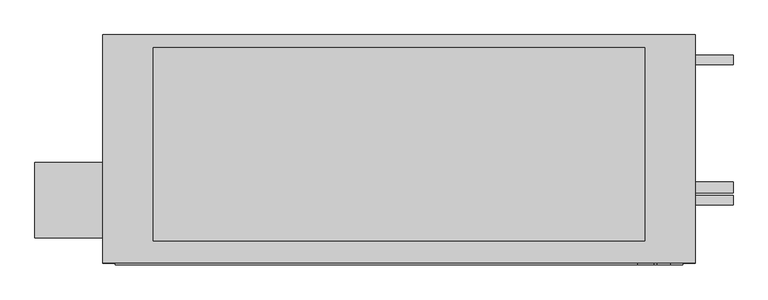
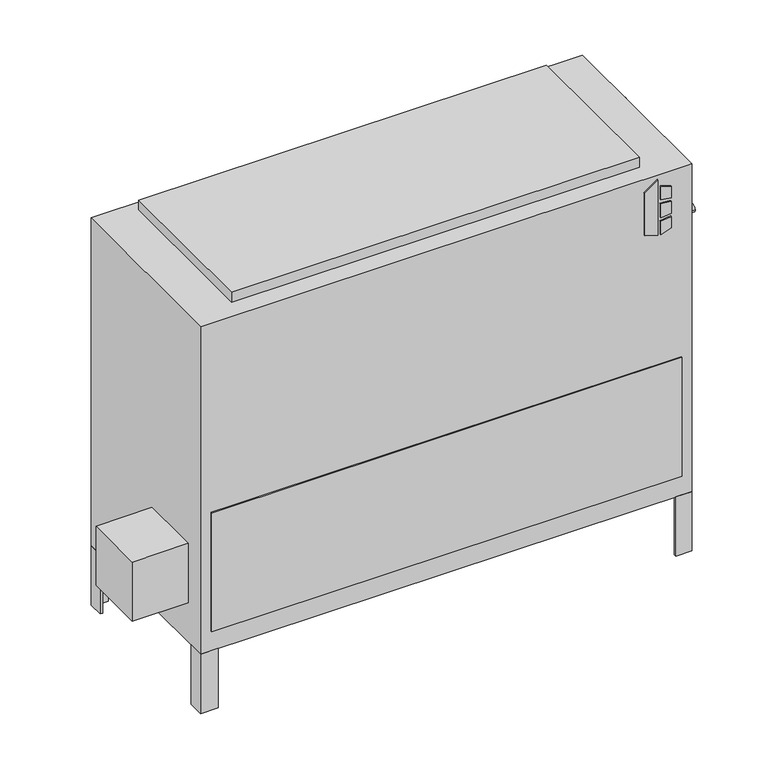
"""IFC4 building model written with IfcOpenShell, lengths in millimetres: proxy geometry, Concealed_High_Capacity_Vertical_Fan_Coil_Unit_-_VEY_-_IEC_-_2-Pipe_Cool-EHeat_RH_2022 : Size 16 - 277v/60Hz/1Ph - 6 Row 12.0kW."""

from ifc_helpers import new_model, si_unit, point, frame, frame_2d, origin, origin_with_axes, place, context, project, spatial, polyline, circle_curve, trimmed, segment, composite_curve, outline, extrude, source, transform, mapped, element, save


def mechanical_equipment_69e2358a(model_context):
    return source(origin(), model_context, "Body", "SweptSolid", [
        extrude(outline(polyline([(698.9230703, 633.4868862), (688.975, 665.6602728), (831.1459244, 665.6602728), (808.1239183, 633.4868862), (698.9230703, 633.4868862)])), frame((0.0, -471.4875, 0.0), z_axis=(0.0, 1.0, 0.0), x_axis=(0.0, 0.0, 1.0)), (0.0, 0.0, 1.0), 3.175),
        extrude(outline(polyline([(777.9223557, 672.4186058), (774.7199632, 698.5), (803.9488042, 698.5), (812.0132193, 672.4186058), (777.9223557, 672.4186058)])), frame((0.0, -471.4875, 0.0), z_axis=(0.0, 1.0, 0.0), x_axis=(0.0, 0.0, 1.0)), (0.0, 0.0, 1.0), 3.175),
        extrude(outline(polyline([(726.0588288, 698.5), (722.3933279, 672.4186058), (688.975, 672.4186058), (697.6092372, 698.5), (726.0588288, 698.5)])), frame((0.0, -471.4875, 0.0), z_axis=(0.0, 1.0, 0.0), x_axis=(0.0, 0.0, 1.0)), (0.0, 0.0, 1.0), 3.175),
        extrude(outline(polyline([(765.3739903, 698.5), (767.6558166, 672.4186058), (731.7182681, 672.4186058), (734.4595331, 698.5), (765.3739903, 698.5)])), frame((0.0, -471.4875, 0.0), z_axis=(0.0, 1.0, 0.0), x_axis=(0.0, 0.0, 1.0)), (0.0, 0.0, 1.0), 3.175),
        extrude(outline(polyline([(-581.025, -417.5125), (-581.025, -265.1125), (-444.5, -265.1125), (-444.5, -417.5125), (-581.025, -417.5125)])), frame((0.0, 0.0, 101.6), z_axis=(0.0, 0.0, 1.0), x_axis=(1.0, 0.0, 0.0)), (0.0, 0.0, 1.0), 152.4),
        extrude(outline(polyline([(749.3, -46.0375), (742.95, -46.0375), (742.95, -14.2875), (711.2, -14.2875), (711.2, -7.9375), (749.3, -7.9375), (749.3, -46.0375)])), frame((0.0, 0.0, -152.4), z_axis=(0.0, 0.0, 1.0), x_axis=(1.0, 0.0, 0.0)), (0.0, 0.0, 1.0), 152.4),
        extrude(outline(polyline([(-406.4, -7.9375), (-406.4, -14.2875), (-438.15, -14.2875), (-438.15, -46.0375), (-444.5, -46.0375), (-444.5, -7.9375), (-406.4, -7.9375)])), frame((0.0, 0.0, -152.4), z_axis=(0.0, 0.0, 1.0), x_axis=(1.0, 0.0, 0.0)), (0.0, 0.0, 1.0), 152.4),
        extrude(outline(polyline([(711.2, -468.3125), (711.2, -461.9625), (742.95, -461.9625), (742.95, -430.2125), (749.3, -430.2125), (749.3, -468.3125), (711.2, -468.3125)])), frame((0.0, 0.0, -152.4), z_axis=(0.0, 0.0, 1.0), x_axis=(1.0, 0.0, 0.0)), (0.0, 0.0, 1.0), 152.4),
        extrude(outline(polyline([(-444.5, -428.1199163), (-438.15, -428.1199163), (-438.15, -461.9625), (-401.0318533, -461.9625), (-401.0318533, -468.3125), (-444.5, -468.3125), (-444.5, -428.1199163)])), frame((0.0, 0.0, -152.4), z_axis=(0.0, 0.0, 1.0), x_axis=(1.0, 0.0, 0.0)), (0.0, 0.0, 1.0), 152.4),
        extrude(outline(polyline([(647.7, -33.3375), (647.7, -423.8625), (-342.9, -423.8625), (-342.9, -33.3375), (647.7, -33.3375)])), frame((0.0, 0.0, 841.375), z_axis=(0.0, 0.0, 1.0), x_axis=(1.0, 0.0, 0.0)), (0.0, 0.0, 1.0), 25.4),
        extrude(outline(polyline([(723.9, -471.4875), (-419.1, -471.4875), (-419.1, -468.3125), (723.9, -468.3125), (723.9, -471.4875)])), frame((0.0, 0.0, 50.8), z_axis=(0.0, 0.0, 1.0), x_axis=(1.0, 0.0, 0.0)), (0.0, 0.0, 1.0), 304.8),
        extrude(outline(composite_curve([segment(trimmed(circle_curve(frame_2d((-58.7375, 727.075)), 9.525), [point((-49.2125, 727.075))], [point((-68.2625, 727.075))], False, "CARTESIAN"), True, "CONTINUOUS"), segment(trimmed(circle_curve(frame_2d((-58.7375, 727.075)), 9.525), [point((-68.2625, 727.075))], [point((-49.2125, 727.075))], False, "CARTESIAN"), True, "CONTINUOUS")], self_intersect=False)), frame((749.3, 0.0, 0.0), z_axis=(1.0, 0.0, 0.0), x_axis=(0.0, 1.0, 0.0)), (0.0, 0.0, 1.0), 76.2),
        extrude(outline(composite_curve([segment(trimmed(circle_curve(frame_2d((-341.3125, 625.475)), 9.525), [point((-331.7875, 625.475))], [point((-350.8375, 625.475))], False, "CARTESIAN"), True, "CONTINUOUS"), segment(trimmed(circle_curve(frame_2d((-341.3125, 625.475)), 9.525), [point((-350.8375, 625.475))], [point((-331.7875, 625.475))], False, "CARTESIAN"), True, "CONTINUOUS")], self_intersect=False)), frame((749.3, 0.0, 0.0), z_axis=(1.0, 0.0, 0.0), x_axis=(0.0, 1.0, 0.0)), (0.0, 0.0, 1.0), 76.2),
        extrude(outline(composite_curve([segment(trimmed(circle_curve(frame_2d((-315.9125, 536.575)), 11.1125), [point((-304.8, 536.575))], [point((-327.025, 536.575))], False, "CARTESIAN"), True, "CONTINUOUS"), segment(trimmed(circle_curve(frame_2d((-315.9125, 536.575)), 11.1125), [point((-327.025, 536.575))], [point((-304.8, 536.575))], False, "CARTESIAN"), True, "CONTINUOUS")], self_intersect=False)), frame((749.3, 0.0, 0.0), z_axis=(1.0, 0.0, 0.0), x_axis=(0.0, 1.0, 0.0)), (0.0, 0.0, 1.0), 76.2),
        extrude(outline(polyline([(749.3, -7.9375), (749.3, -468.3125), (-444.5, -468.3125), (-444.5, -7.9375), (749.3, -7.9375)])), origin_with_axes(), (0.0, 0.0, 1.0), 841.375),
    ])


if __name__ == "__main__":
    model = new_model("IFC4")
    model_context = context("Model", 3, world=origin())
    ifc_project = project(units=[si_unit("LENGTHUNIT", "METRE", prefix="MILLI")], contexts=[model_context])
    site = spatial("IfcSite", under=ifc_project)
    building = spatial("IfcBuilding", under=site)
    placement = place(None, origin())
    mechanical_equipment_shape = mechanical_equipment_69e2358a(model_context)
    element("IfcBuildingElementProxy", 1, Name="Concealed_High_Capacity_Vertical_Fan_Coil_Unit_-_VEY_-_IEC_-_2-Pipe_Cool-EHeat_RH_2022 : Size 16 - 277v/60Hz/1Ph - 6 Row 12.0kW", ObjectType="Concealed_High_Capacity_Vertical_Fan_Coil_Unit_-_VEY_-_IEC_-_2-Pipe_Cool-EHeat_RH_2022 : Size 16 - 277v/60Hz/1Ph - 6 Row 12.0kW", at=placement, inside=building, context=model_context, shape_type="MappedRepresentation", body=[
        mapped(mechanical_equipment_shape, transform((0.0, 0.0, 0.0), x_axis=(1.0, 0.0, 0.0), y_axis=(0.0, 1.0, 0.0), z_axis=(0.0, 0.0, 1.0))),
    ])
    save(model, "model.ifc")
